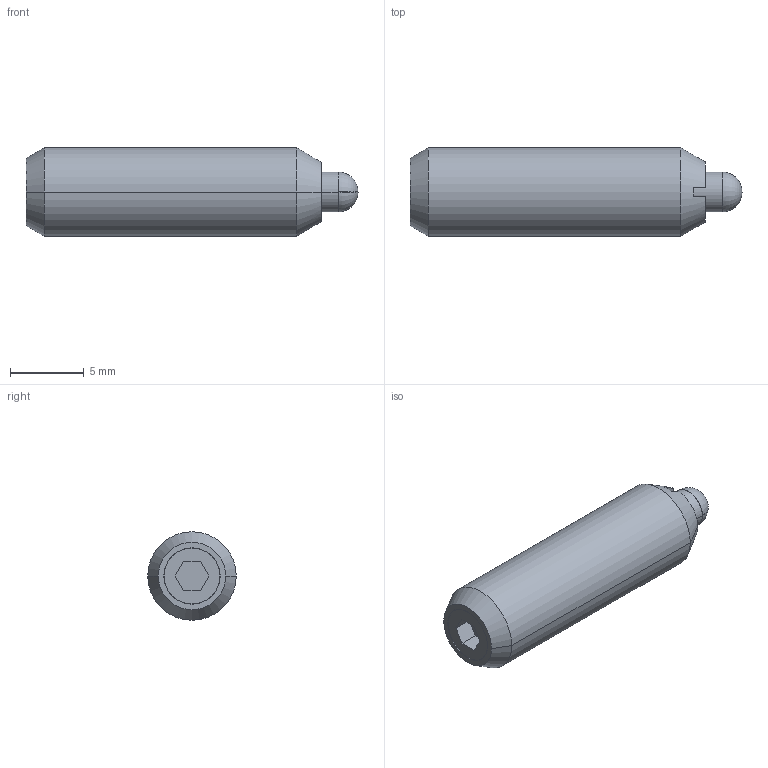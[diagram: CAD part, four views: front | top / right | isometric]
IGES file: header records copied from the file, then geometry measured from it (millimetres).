
Start section:  PTC IGES file: ssml6a-3d.igs
Global section: file name: ssml6a-3d.igs; native system: Pro/ENGINEER by Parametric Technology Corporation; preprocessor: 2002350; author: chant; organization: Unknown; date: 061031.155744; units: inch
Bounding box: 22.48 x 5.99 x 5.99 mm (x, y, z)
Surface area: 465.8 mm2 (no closed solid volume)
Topology: 0 solids, 0 shells, 32 faces, 222 edges, 280 vertices
Faces by surface type: bspline 16, revolution 16
